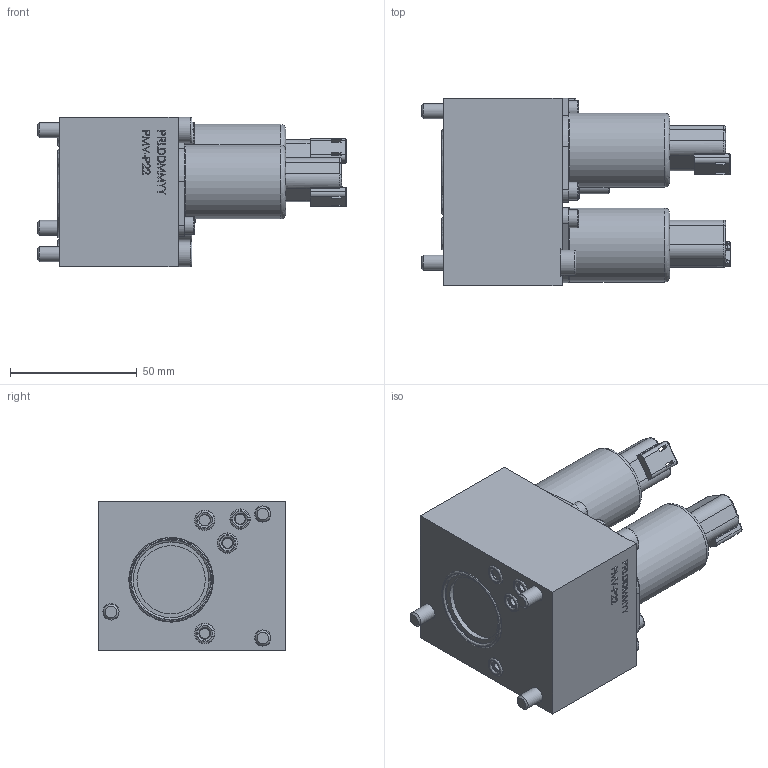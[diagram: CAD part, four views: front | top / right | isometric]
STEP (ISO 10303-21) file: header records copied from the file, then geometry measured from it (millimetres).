
FILE_DESCRIPTION (( 'STEP AP214' ), '1' );
FILE_NAME ('0304544.STEP', '2022-08-02T13:17:55', ( '' ), ( '' ), 'SwSTEP 2.0', 'SolidWorks 2020', '' );
FILE_SCHEMA (( 'AUTOMOTIVE_DESIGN' ));
Length unit declared in the file: millimetre
Products named in the file (10): 0290158_012; 0293053_002; 0073842_153.2301; 0290158_001; 0074669_079.3160; 0304544; 0291149_002; 0283782_001; 0074697_246.1510; 0074748_246.3156
Assembly tree (22 placements, depth 2):
  0304544
    0293053_002
    0291149_002  x2
    0073842_153.2301
    0074697_246.1510  x4
    0074748_246.3156  x3
    0074669_079.3160
    0283782_001  x5
    0290158_001  x4
    0290158_012
Bounding box: 122 x 74 x 59 mm (x, y, z)
Volume: 225694.3 mm3; surface area: 64588.9 mm2
Topology: 29 solids, 33 shells, 1165 faces, 2779 edges, 1750 vertices
Faces by surface type: plane 547, cylinder 245, cone 182, bspline 171, torus 20
Full cylindrical faces by diameter (mm): 0.6 x5, 1.1 x5, 1.56 x4, 1.6 x4, 2.4 x16, 3.3 x4, 3.5 x5, 3.767 x5, 3.8 x2, 4 x12, 4.47 x4, 4.5 x4, 5 x2, 5.037 x2, 6 x4, 6.4 x3, 6.9 x2, 7 x4, 7.8 x4, 8 x2, 8.03 x4, 8.39 x2, 8.6 x2, 8.9 x2, 9 x4, 9.1 x6, 9.5 x2, 9.9 x2, 10 x3, 10.1 x4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
Entity records: 45879 total; most frequent: CARTESIAN_POINT 29822, ORIENTED_EDGE 2890, DIRECTION 2700, EDGE_CURVE 1445, VERTEX_POINT 1029, EDGE_LOOP 962, AXIS2_PLACEMENT_3D 932, LINE 836
